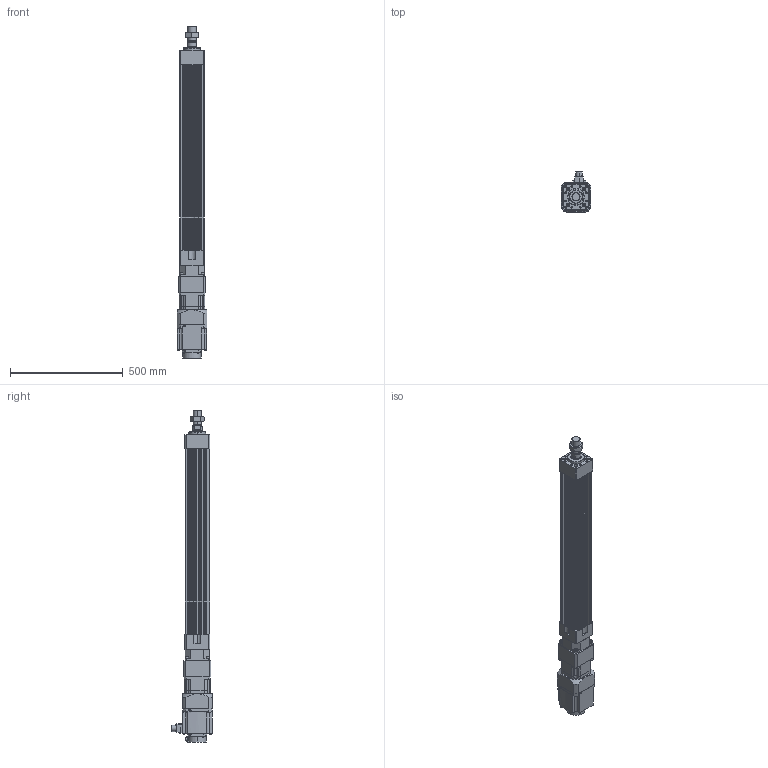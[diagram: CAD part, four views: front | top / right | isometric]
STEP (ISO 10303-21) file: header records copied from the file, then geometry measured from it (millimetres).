
FILE_DESCRIPTION (( 'STEP AP203' ), '1' );
FILE_NAME ('HES110NS(HS)-S650-W015G00-M.STEP', '2023-01-27T11:03:02', ( 'tms' ), ( '' ), 'SwSTEP 2.0', 'SolidWorks 2013', '' );
FILE_SCHEMA (( 'CONFIG_CONTROL_DESIGN' ));
Length unit declared in the file: millimetre
Products named in the file (8): M36X1.5P; HES110-S650-G120; AB115-003[HG-SR152]; P0401400706; HES110 ROD M ST650; HG-SR152; AB1151; HES110NS(HS)-S650-W015G00-M
Assembly tree (7 placements, depth 3):
  HES110NS(HS)-S650-W015G00-M
    HES110-S650-G120
    HES110 ROD M ST650
    M36X1.5P
    AB115-003[HG-SR152]
      AB1151
      P0401400706
    HG-SR152
Bounding box: 130 x 177.49 x 1471.5 mm (x, y, z)
Volume: 9316059.2 mm3; surface area: 1333138.7 mm2
Topology: 4 solids, 15 shells, 1202 faces, 3026 edges, 1951 vertices
Faces by surface type: plane 551, cylinder 537, cone 102, bspline 8, torus 4
Entity records: 37654 total; most frequent: CARTESIAN_POINT 7134, DIRECTION 6533, ORIENTED_EDGE 5960, EDGE_CURVE 2990, AXIS2_PLACEMENT_3D 2410, VERTEX_POINT 1951, VECTOR 1713, LINE 1713
